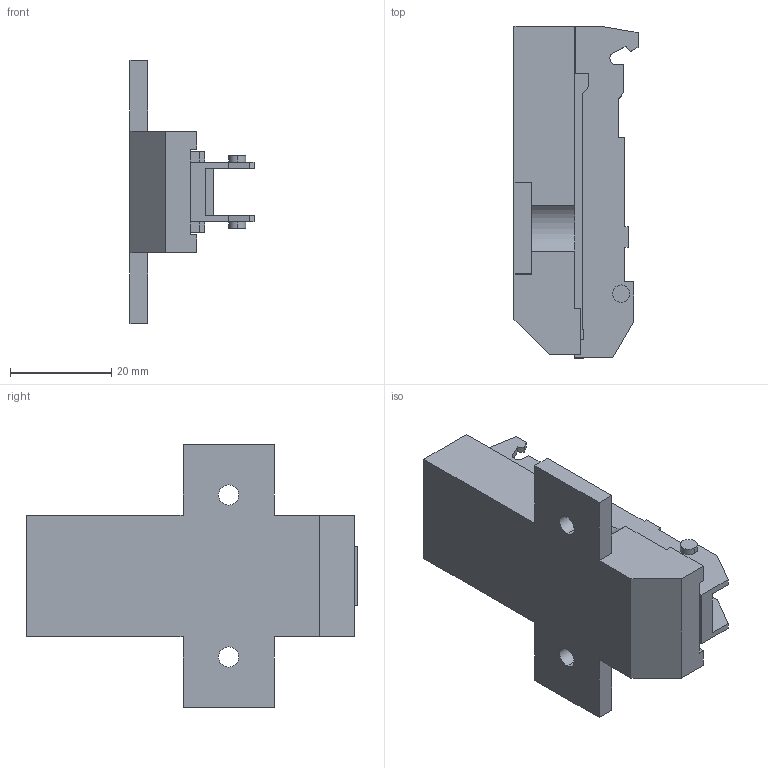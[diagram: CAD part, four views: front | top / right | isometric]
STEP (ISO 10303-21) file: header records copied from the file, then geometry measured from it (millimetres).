
FILE_DESCRIPTION (( 'STEP AP214' ), '1' );
FILE_NAME ('1D Kreuzmontageplatte_37_32_H14.STEP', '2011-08-18T14:02:08', ( '' ), ( '' ), 'SwSTEP 2.0', 'SolidWorks 2011', '' );
FILE_SCHEMA (( 'AUTOMOTIVE_DESIGN' ));
Length unit declared in the file: millimetre
Products named in the file (1): 1D Kreuzmontageplatte_37_32_H14
Bounding box: 24.5 x 65.55 x 52 mm (x, y, z)
Volume: 23641.8 mm3; surface area: 9030.3 mm2
Topology: 1 solids, 1 shells, 101 faces, 289 edges, 192 vertices
Faces by surface type: plane 89, cylinder 12
Entity records: 3293 total; most frequent: CARTESIAN_POINT 583, ORIENTED_EDGE 578, DIRECTION 517, EDGE_CURVE 289, VECTOR 265, LINE 265, VERTEX_POINT 192, AXIS2_PLACEMENT_3D 126
